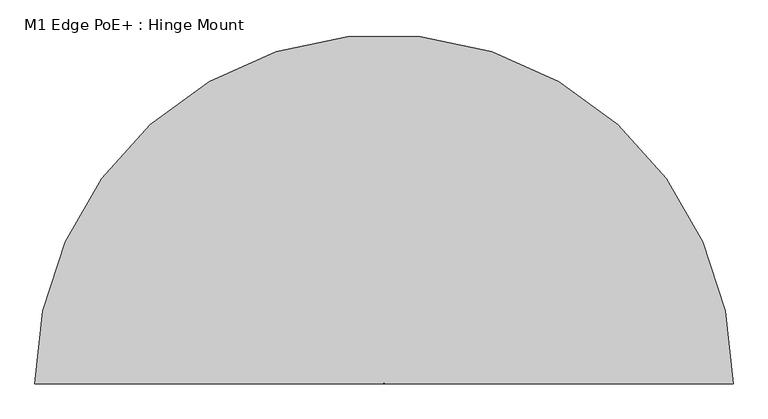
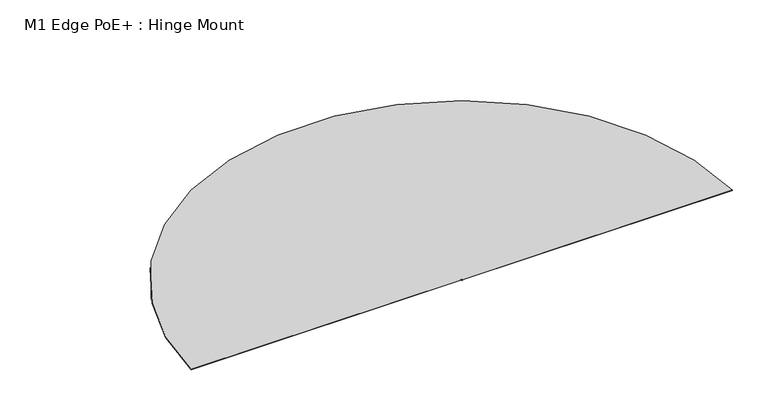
"""IFC4 building model written with IfcOpenShell, lengths in millimetres: proxy geometry, M1 Edge PoE+ : Hinge Mount."""

from ifc_helpers import new_model, si_unit, frame, origin, place, context, project, spatial, polyline, circle_curve, outline, extrude, source, transform, mapped, element, save
from ifc_brep_helpers import plane_surface, cylinder_surface, revolved_surface, advanced_brep


def m1_edge_poe_hinge_mount_f169b62e(model_context):
    return source(origin(), model_context, "Body", "SolidModel", [
        extrude(outline(polyline([(50.00625, 150.0), (50.00625, 0.0), (-50.00625, 0.0), (-50.00625, 150.0), (50.00625, 150.0)])), frame((0.0, 0.0, 2989.8084825), z_axis=(0.0, 0.0, 1.0), x_axis=(1.0, 0.0, 0.0)), (0.0, 0.0, 1.0), 3.175),
        extrude(outline(polyline([(50.00625, 3.175), (50.00625, 0.0), (-50.00625, 0.0), (-50.00625, 3.175), (50.00625, 3.175)])), frame((0.0, 0.0, 2992.9834825), z_axis=(0.0, 0.0, 1.0), x_axis=(1.0, 0.0, 0.0)), (0.0, 0.0, 1.0), 150.0),
        advanced_brep(
        [(0.0, 28.675, 3063.03192), (0.0, 117.675, 3063.03192), (0.0, 117.675, 3127.0834825), (0.0, 28.675, 3127.0834825), (0.0, 25.175, 3063.03192), (0.0, 121.175, 3063.03192), (0.0, 25.175, 3053.0108263), (0.0, 121.175, 3053.0108263), (0.0, 15.675, 3053.0108263), (0.0, 130.675, 3053.0108263), (0.0, 15.675, 2992.9834825), (0.0, 130.675, 2992.9834825), (0.0, 73.175, 2992.9834825), (0.0, 73.175, 3127.0834825)],
        [
            (0, 1, circle_curve(frame((0.0, 73.175, 3063.03192), z_axis=(0.0, 0.0, 1.0), x_axis=(0.0, 1.0, 0.0)), 44.5)),
            (1, 2),
            (2, 3, circle_curve(frame((0.0, 73.175, 3127.0834825), z_axis=(0.0, 0.0, -1.0), x_axis=(0.0, 1.0, 0.0)), 44.5)),
            (3, 0),
            (1, 0, circle_curve(frame((0.0, 73.175, 3063.03192), z_axis=(0.0, 0.0, 1.0), x_axis=(0.0, 1.0, 0.0)), 44.5)),
            (3, 2, circle_curve(frame((0.0, 73.175, 3127.0834825), z_axis=(0.0, 0.0, -1.0), x_axis=(0.0, 1.0, 0.0)), 44.5)),
            (4, 5, circle_curve(frame((0.0, 73.175, 3063.03192), z_axis=(0.0, 0.0, 1.0), x_axis=(0.0, 1.0, 0.0)), 48.0)),
            (5, 1),
            (0, 4),
            (5, 4, circle_curve(frame((0.0, 73.175, 3063.03192), z_axis=(0.0, 0.0, 1.0), x_axis=(0.0, 1.0, 0.0)), 48.0)),
            (6, 7, circle_curve(frame((0.0, 73.175, 3053.0108263), z_axis=(0.0, 0.0, 1.0), x_axis=(0.0, 1.0, 0.0)), 48.0)),
            (7, 5),
            (4, 6),
            (7, 6, circle_curve(frame((0.0, 73.175, 3053.0108263), z_axis=(0.0, 0.0, 1.0), x_axis=(0.0, 1.0, 0.0)), 48.0)),
            (8, 9, circle_curve(frame((0.0, 73.175, 3053.0108263), z_axis=(0.0, 0.0, 1.0), x_axis=(0.0, 1.0, 0.0)), 57.5)),
            (9, 7),
            (6, 8),
            (9, 8, circle_curve(frame((0.0, 73.175, 3053.0108263), z_axis=(0.0, 0.0, 1.0), x_axis=(0.0, 1.0, 0.0)), 57.5)),
            (10, 11, circle_curve(frame((0.0, 73.175, 2992.9834825), z_axis=(0.0, 0.0, 1.0), x_axis=(0.0, 1.0, 0.0)), 57.5)),
            (11, 9),
            (8, 10),
            (11, 10, circle_curve(frame((0.0, 73.175, 2992.9834825), z_axis=(0.0, 0.0, 1.0), x_axis=(0.0, 1.0, 0.0)), 57.5)),
            (12, 11),
            (10, 12),
            (2, 13),
            (13, 3),
        ],
        [
            cylinder_surface(frame((0.0, 73.175, 3394.9634398), z_axis=(0.0, 0.0, -1.0), x_axis=(0.0, 1.0, 0.0)), 44.5),
            plane_surface(frame((0.0, 73.175, 3063.03192), z_axis=(0.0, 0.0, 1.0), x_axis=(0.0, 1.0, 0.0))),
            cylinder_surface(frame((0.0, 73.175, 3394.9634398), z_axis=(0.0, 0.0, -1.0), x_axis=(0.0, 1.0, 0.0)), 48.0),
            plane_surface(frame((0.0, 73.175, 3053.0108263), z_axis=(0.0, 0.0, 1.0), x_axis=(0.0, 1.0, 0.0))),
            cylinder_surface(frame((0.0, 73.175, 3394.9634398), z_axis=(0.0, 0.0, -1.0), x_axis=(0.0, 1.0, 0.0)), 57.5),
            plane_surface(frame((0.0, 73.175, 2992.9834825), z_axis=(0.0, 0.0, -1.0), x_axis=(0.0, 1.0, 0.0))),
            plane_surface(frame((0.0, 73.175, 3127.0834825), z_axis=(0.0, 0.0, 1.0), x_axis=(0.0, 1.0, 0.0))),
        ],
        [
            (0, [[1, 2, 3, 4]]),
            (0, [[5, -4, 6, -2]]),
            (1, [[7, 8, -1, 9]]),
            (1, [[10, -9, -5, -8]]),
            (2, [[11, 12, -7, 13]]),
            (2, [[14, -13, -10, -12]]),
            (3, [[15, 16, -11, 17]]),
            (3, [[18, -17, -14, -16]]),
            (4, [[19, 20, -15, 21]]),
            (4, [[22, -21, -18, -20]]),
            (5, [[23, -19, 24]]),
            (5, [[-24, -22, -23]]),
            (6, [[-3, 25, 26]]),
            (6, [[-6, -26, -25]]),
        ],
    ),
        advanced_brep(
        [(-70104.0, 73.175, 3091.60692), (-70104.0, 73.175, 3011.8911911), (-46.2980768, 73.175, 3091.60692), (70104.0, 73.175, 3091.60692), (46.2980768, 73.175, 3091.60692), (70104.0, 73.175, 3011.8911911)],
        [
            (0, 1),
            (1, 2),
            (2, 0),
            (3, 4),
            (4, 5),
            (5, 3),
            (5, 1, circle_curve(frame((0.0, 73.175, 3011.8911911), z_axis=(0.0, 0.0, 1.0), x_axis=(-1.0, 0.0, 0.0)), 70104.0)),
            (0, 3, circle_curve(frame((0.0, 73.175, 3091.60692), z_axis=(0.0, 0.0, -1.0), x_axis=(-1.0, 0.0, 0.0)), 70104.0)),
            (4, 2, circle_curve(frame((0.0, 73.175, 3091.60692), z_axis=(0.0, 0.0, 1.0), x_axis=(-1.0, 0.0, 0.0)), 46.2980768)),
        ],
        [
            plane_surface(frame((0.0, 73.175, 5435.4137144), z_axis=(0.0, -1.0, 0.0), x_axis=(-1.0, 0.0, 0.0))),
            plane_surface(frame((0.0, 73.175, 5435.4137144), z_axis=(0.0, -1.0, 0.0), x_axis=(1.0, 0.0, 0.0))),
            cylinder_surface(frame((0.0, 73.175, 5435.4137144), z_axis=(0.0, 0.0, -1.0), x_axis=(-1.0, 0.0, 0.0)), 70104.0),
            revolved_surface(polyline([(-70104.0, 73.175, 3011.8911911), (-46.2980768, 73.175, 3091.60692)]), (0.0, 73.175, 5435.4137144), (0.0, 0.0, -1.0)),
            plane_surface(frame((0.0, 73.175, 3091.60692), z_axis=(0.0, 0.0, 1.0), x_axis=(-1.0, 0.0, 0.0))),
        ],
        [
            (0, [[1, 2, 3]]),
            (1, [[4, 5, 6]]),
            (2, [[7, -1, 8, -6]]),
            (3, [[9, -2, -7, -5]]),
            (4, [[-8, -3, -9, -4]]),
        ],
    ),
    ])


if __name__ == "__main__":
    model = new_model("IFC4")
    model_context = context("Model", 3, world=origin())
    ifc_project = project(units=[si_unit("LENGTHUNIT", "METRE", prefix="MILLI")], contexts=[model_context])
    site = spatial("IfcSite", under=ifc_project)
    building = spatial("IfcBuilding", under=site)
    placement = place(None, origin())
    m1_edge_poe_hinge_mount_shape = m1_edge_poe_hinge_mount_f169b62e(model_context)
    element("IfcBuildingElementProxy", 1, Name="M1 Edge PoE+ : Hinge Mount", ObjectType="M1 Edge PoE+ : Hinge Mount", at=placement, inside=building, context=model_context, shape_type="MappedRepresentation", body=[
        mapped(m1_edge_poe_hinge_mount_shape, transform((0.0, 0.0, 0.0), x_axis=(1.0, 0.0, 0.0), y_axis=(0.0, 1.0, 0.0), z_axis=(0.0, 0.0, 1.0))),
    ])
    save(model, "model.ifc")
